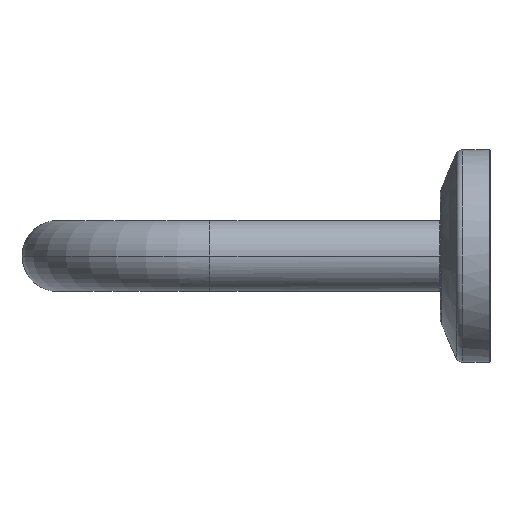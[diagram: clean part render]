
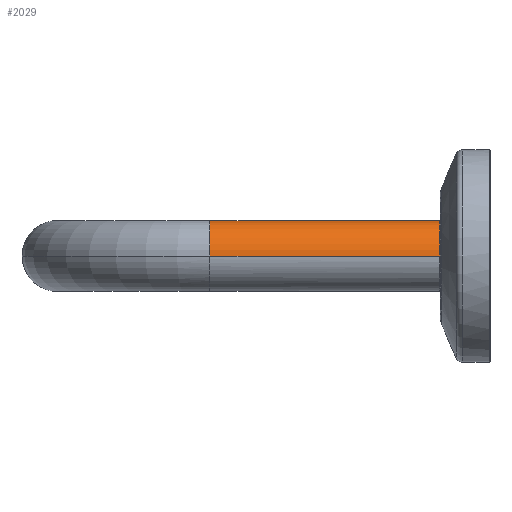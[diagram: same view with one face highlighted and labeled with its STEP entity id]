
A CAD part, left-side view. The second image highlights one B-rep face of the part: STEP entity #2029.
In plain terms, the highlighted cylindrical face has radius 10 mm (diameter 20 mm), a partial arc.
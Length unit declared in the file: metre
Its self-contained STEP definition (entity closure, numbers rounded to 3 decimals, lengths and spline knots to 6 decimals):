
#104=EDGE_CURVE('',#105,#107,#109,.F.);
#105=VERTEX_POINT('',#106);
#106=CARTESIAN_POINT('',(-0.25,0.0002,-0.0));
#107=VERTEX_POINT('',#108);
#108=CARTESIAN_POINT('',(-0.24,0.0002,0.01));
#109=CIRCLE('',#110,0.01);
#110=AXIS2_PLACEMENT_3D('',#111,#112,#113);
#111=CARTESIAN_POINT('',(-0.24,0.0002,-0.0));
#112=DIRECTION('',(0.,-1.0,0.0));
#113=DIRECTION('',(1.0,0.,0.0));
#2029=ADVANCED_FACE('',(#2035),#2030,.T.);
#2030=CYLINDRICAL_SURFACE('',#2031,0.01);
#2031=AXIS2_PLACEMENT_3D('',#2032,#2033,#2034);
#2032=CARTESIAN_POINT('',(-0.24,0.065,-0.0));
#2033=DIRECTION('',(0.,-1.0,-0.0));
#2034=DIRECTION('',(-1.0,0.,0.));
#2035=FACE_OUTER_BOUND('',#2036,.T.);
#2036=EDGE_LOOP('',(#2037,#2048,#2054,#2055,#2059,#2068,#2085,#2103));
#2037=ORIENTED_EDGE('',*,*,#2038,.F.);
#2038=EDGE_CURVE('',#2039,#2041,#2043,.T.);
#2039=VERTEX_POINT('',#2040);
#2040=CARTESIAN_POINT('',(-0.25,0.065,-0.0));
#2041=VERTEX_POINT('',#2042);
#2042=CARTESIAN_POINT('',(-0.23,0.065,-0.0));
#2043=CIRCLE('',#2044,0.01);
#2044=AXIS2_PLACEMENT_3D('',#2045,#2046,#2047);
#2045=CARTESIAN_POINT('',(-0.24,0.065,-0.0));
#2046=DIRECTION('',(0.,1.0,0.));
#2047=DIRECTION('',(0.,0.,-1.0));
#2048=ORIENTED_EDGE('',*,*,#2049,.T.);
#2049=EDGE_CURVE('',#2039,#105,#2050,.T.);
#2050=LINE('',#2051,#2052);
#2051=CARTESIAN_POINT('',(-0.25,0.065,-0.0));
#2052=VECTOR('',#2053,1.0);
#2053=DIRECTION('',(0.,-1.0,-0.0));
#2054=ORIENTED_EDGE('',*,*,#104,.T.);
#2055=ORIENTED_EDGE('',*,*,#2056,.T.);
#2056=EDGE_CURVE('',#107,#2057,#109,.F.);
#2057=VERTEX_POINT('',#2058);
#2058=CARTESIAN_POINT('',(-0.23,0.0002,-0.0));
#2059=ORIENTED_EDGE('',*,*,#2060,.F.);
#2060=EDGE_CURVE('',#2061,#2057,#2063,.T.);
#2061=VERTEX_POINT('',#2062);
#2062=CARTESIAN_POINT('',(-0.23,0.033,0.0));
#2063=LINE('',#2064,#2065);
#2064=CARTESIAN_POINT('',(-0.23,0.065,-0.0));
#2065=VECTOR('',#2066,1.0);
#2066=DIRECTION('',(0.,-1.0,-0.0));
#2067=CARTESIAN_POINT('',(-0.23,0.033,0.0));
#2068=ORIENTED_EDGE('',*,*,#2069,.F.);
#2069=EDGE_CURVE('',#2070,#2061,#2072,.F.);
#2070=VERTEX_POINT('',#2071);
#2071=CARTESIAN_POINT('',(-0.232727,0.04,0.006863));
#2072=B_SPLINE_CURVE_WITH_KNOTS('',3,(#2067,#2073,#2074,#2075,#2076,#2077,
  #2078,#2079,#2080,#2081,#2082,#2083),.UNSPECIFIED.,.F.,.U.,(4,2,2,2,2,
  4),(0.0,0.002836,0.005673,0.007091,
  0.008509,0.011345),.UNSPECIFIED.);
#2073=CARTESIAN_POINT('',(-0.229999,0.032999,
  0.000936));
#2074=CARTESIAN_POINT('',(-0.230137,0.0332,
  0.00186));
#2075=CARTESIAN_POINT('',(-0.230601,0.033922,
  0.003522));
#2076=CARTESIAN_POINT('',(-0.230925,0.03444,
  0.004259));
#2077=CARTESIAN_POINT('',(-0.231435,0.03538,
  0.005174));
#2078=CARTESIAN_POINT('',(-0.231612,0.035727,
  0.005453));
#2079=CARTESIAN_POINT('',(-0.231947,0.03646,
  0.005936));
#2080=CARTESIAN_POINT('',(-0.232106,0.036848,
  0.006144));
#2081=CARTESIAN_POINT('',(-0.232531,0.038098,
  0.006664));
#2082=CARTESIAN_POINT('',(-0.232728,0.039032,
  0.006863));
#2083=CARTESIAN_POINT('',(-0.232727,0.04,0.006863));
#2084=CARTESIAN_POINT('',(-0.232727,0.04,0.006863));
#2085=ORIENTED_EDGE('',*,*,#2086,.F.);
#2086=EDGE_CURVE('',#2087,#2070,#2089,.F.);
#2087=VERTEX_POINT('',#2088);
#2088=CARTESIAN_POINT('',(-0.23,0.047,0.0));
#2089=B_SPLINE_CURVE_WITH_KNOTS('',3,(#2084,#2090,#2091,#2092,#2093,#2094,
  #2095,#2096,#2097,#2098,#2099,#2100,#2101,#2102),.UNSPECIFIED.,.F.,.U.,
  (4,2,2,2,2,2,4),(0.0,0.002837,0.005674,
  0.007092,0.008511,0.009929,
  0.011348),.UNSPECIFIED.);
#2090=CARTESIAN_POINT('',(-0.232729,0.040957,
  0.006864));
#2091=CARTESIAN_POINT('',(-0.232534,0.041892,
  0.006667));
#2092=CARTESIAN_POINT('',(-0.231966,0.043566,
  0.005972));
#2093=CARTESIAN_POINT('',(-0.231605,0.044308,
  0.005479));
#2094=CARTESIAN_POINT('',(-0.231094,0.045249,
  0.004561));
#2095=CARTESIAN_POINT('',(-0.230925,0.045539,
  0.00422));
#2096=CARTESIAN_POINT('',(-0.230622,0.046041,
  0.003495));
#2097=CARTESIAN_POINT('',(-0.230486,0.046258,
  0.003108));
#2098=CARTESIAN_POINT('',(-0.230253,0.046619,
  0.002278));
#2099=CARTESIAN_POINT('',(-0.230159,0.046762,
  0.001832));
#2100=CARTESIAN_POINT('',(-0.230034,0.04695,
  0.000934));
#2101=CARTESIAN_POINT('',(-0.23,0.047,
  0.000472));
#2102=CARTESIAN_POINT('',(-0.23,0.047,0.0));
#2103=ORIENTED_EDGE('',*,*,#2104,.F.);
#2104=EDGE_CURVE('',#2041,#2087,#2063,.T.);
